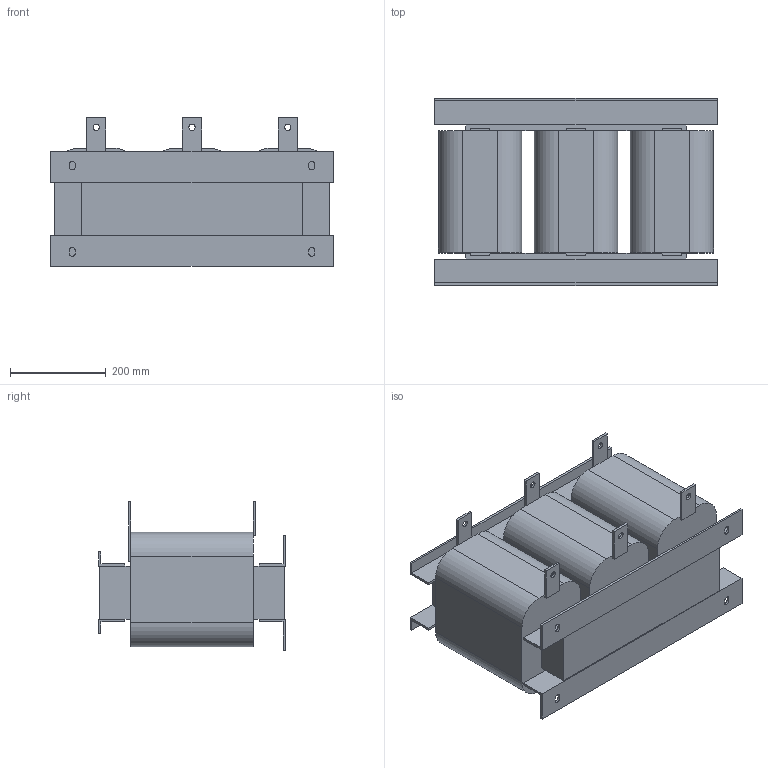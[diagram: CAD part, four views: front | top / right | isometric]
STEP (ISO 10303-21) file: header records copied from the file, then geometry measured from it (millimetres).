
FILE_DESCRIPTION(/* description */ (''),/* implementation_level */ '2;1');
FILE_NAME(/* name */ 'ACO-0466-T6-4.stp',/* time_stamp */ '2025-01-23T16:34:56+04:00',/* author */ ('Александр (огранич)'),/* organization */ (''),/* preprocessor_version */ 'ST-DEVELOPER v19.2',/* originating_system */ 'Autodesk Inventor 2024',/* authorisation */ '');
FILE_SCHEMA (('AUTOMOTIVE_DESIGN { 1 0 10303 214 3 1 1 }'));
Length unit declared in the file: millimetre
Products named in the file (1): ACO-0015-T4-4
Bounding box: 590 x 390 x 310 mm (x, y, z)
Volume: 38168119.3 mm3; surface area: 1304121.1 mm2
Topology: 1 solids, 1 shells, 136 faces, 378 edges, 240 vertices
Faces by surface type: plane 110, cylinder 26
Full cylindrical faces by diameter (mm): 13 x6
Entity records: 4357 total; most frequent: ORIENTED_EDGE 756, CARTESIAN_POINT 755, DIRECTION 704, EDGE_CURVE 378, LINE 326, VECTOR 326, VERTEX_POINT 240, AXIS2_PLACEMENT_3D 189
